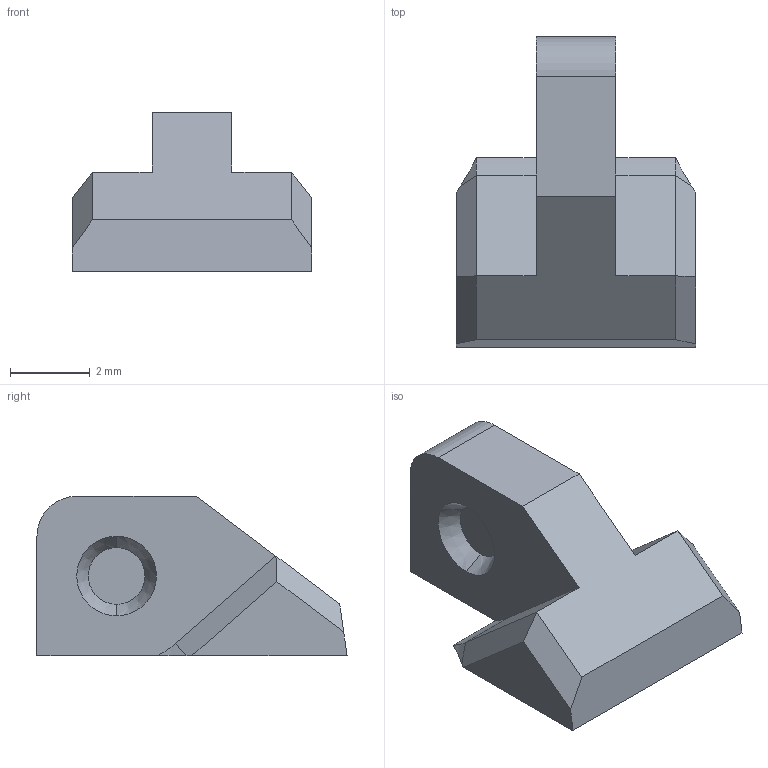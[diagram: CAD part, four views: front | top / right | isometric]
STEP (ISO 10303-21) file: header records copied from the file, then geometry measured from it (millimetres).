
FILE_DESCRIPTION (( 'STEP AP214' ), '1' );
FILE_NAME ('PawA1.STEP', '2023-12-26T22:43:17', ( '' ), ( '' ), 'SwSTEP 2.0', 'SolidWorks 2023', '' );
FILE_SCHEMA (( 'AUTOMOTIVE_DESIGN' ));
Length unit declared in the file: millimetre
Products named in the file (1): PawA1
Bounding box: 6 x 7.79 x 4 mm (x, y, z)
Volume: 74.2 mm3; surface area: 139.7 mm2
Topology: 1 solids, 1 shells, 26 faces, 62 edges, 40 vertices
Faces by surface type: plane 17, cone 6, cylinder 3
Entity records: 773 total; most frequent: CARTESIAN_POINT 135, DIRECTION 128, ORIENTED_EDGE 124, EDGE_CURVE 62, VECTOR 46, LINE 46, AXIS2_PLACEMENT_3D 41, VERTEX_POINT 40
